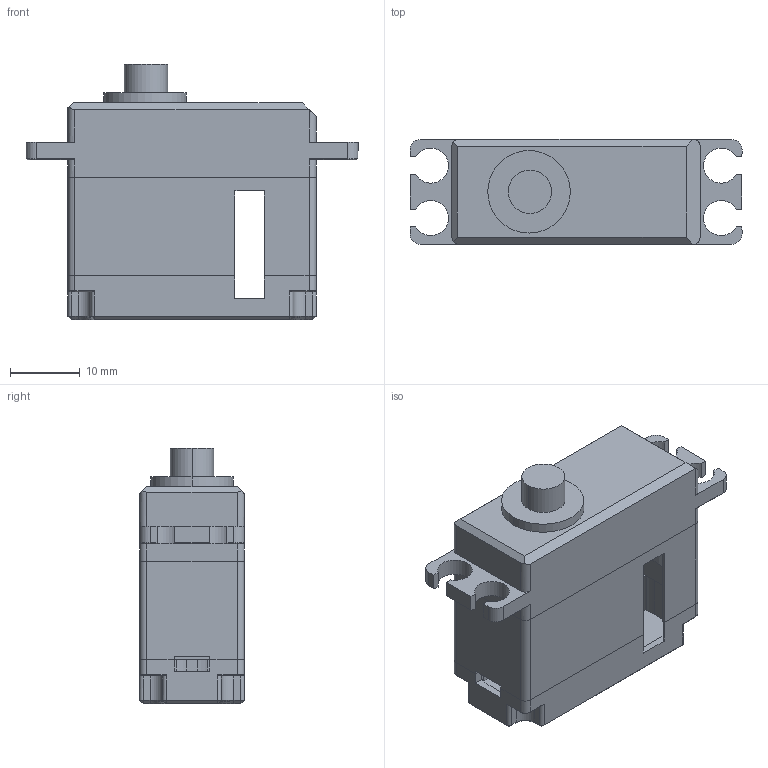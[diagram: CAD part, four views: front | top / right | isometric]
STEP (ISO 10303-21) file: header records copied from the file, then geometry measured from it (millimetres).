
FILE_DESCRIPTION (( 'STEP AP214' ), '1' );
FILE_NAME ('FZ589_DM.STEP', '2020-08-10T09:44:48', ( '微软用户' ), ( '微软中国' ), 'SwSTEP 2.0', 'SolidWorks 2016', '' );
FILE_SCHEMA (( 'AUTOMOTIVE_DESIGN' ));
Length unit declared in the file: millimetre
Products named in the file (2): FZ589_DM
Bounding box: 47.5 x 15 x 36.6 mm (x, y, z)
Volume: 5851.7 mm3; surface area: 9635 mm2
Topology: 4 solids, 4 shells, 361 faces, 1002 edges, 646 vertices
Faces by surface type: plane 170, cylinder 169, cone 22
Entity records: 11657 total; most frequent: DIRECTION 2075, CARTESIAN_POINT 2063, ORIENTED_EDGE 1988, EDGE_CURVE 994, AXIS2_PLACEMENT_3D 738, VERTEX_POINT 646, LINE 599, VECTOR 599
